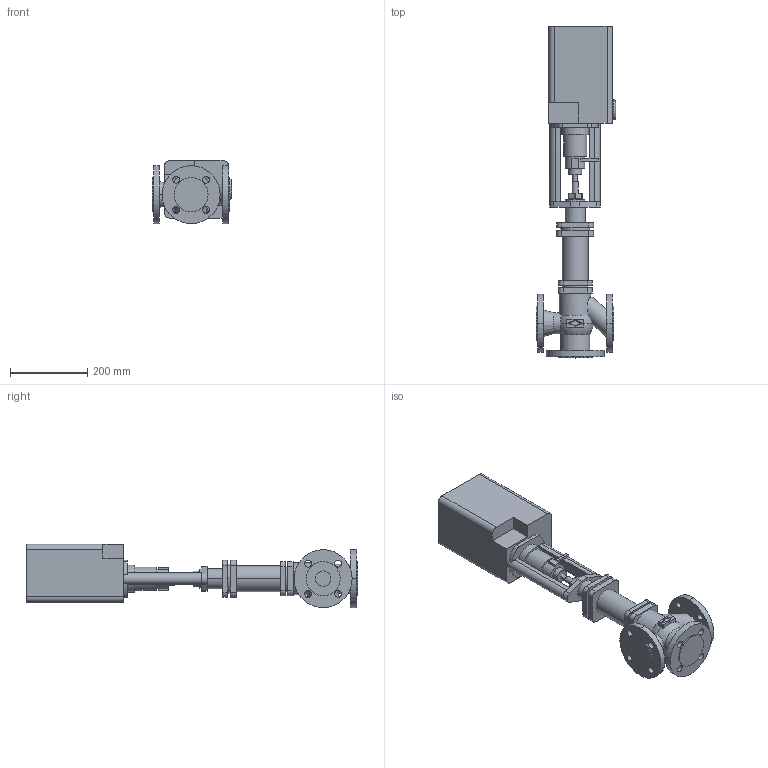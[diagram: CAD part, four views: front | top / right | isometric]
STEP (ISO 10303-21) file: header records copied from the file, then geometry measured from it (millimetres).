
FILE_DESCRIPTION(('OneSpaceDesigner STEP Export'),'2;1');
FILE_NAME('c000002436.stp','2006-09-21T11:43:02',(''),(''),'OneSpace Designer STEP processor for AP214 (Solid Model)','OneSpace Designer 13.20A 18-Aug-2005 (C) CoCreate Software GmbH','');
FILE_SCHEMA(('AUTOMOTIVE_DESIGN { 1 0 10303 214 1 1 1 1 }'));
Length unit declared in the file: millimetre
Products named in the file (2): 1; 2
Bounding box: 204.6 x 858.5 x 164 mm (x, y, z)
Volume: 9811139.5 mm3; surface area: 559274.9 mm2
Topology: 2 solids, 2 shells, 236 faces, 597 edges, 395 vertices
Faces by surface type: cylinder 116, plane 110, sphere 6, cone 2, torus 2
Entity records: 7051 total; most frequent: CARTESIAN_POINT 1567, ORIENTED_EDGE 1194, DIRECTION 1051, EDGE_CURVE 597, VERTEX_POINT 395, AXIS2_PLACEMENT_3D 367, VECTOR 317, LINE 317
